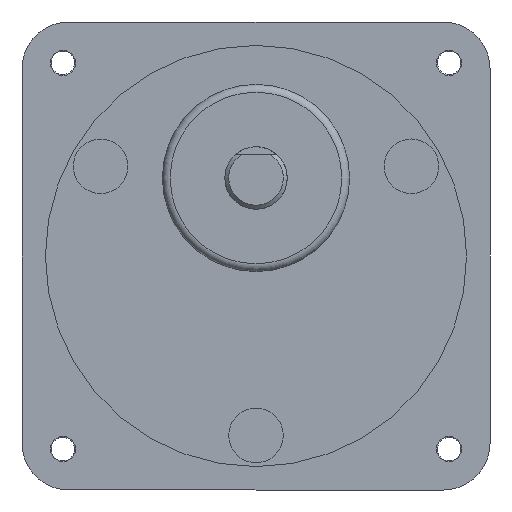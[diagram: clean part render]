
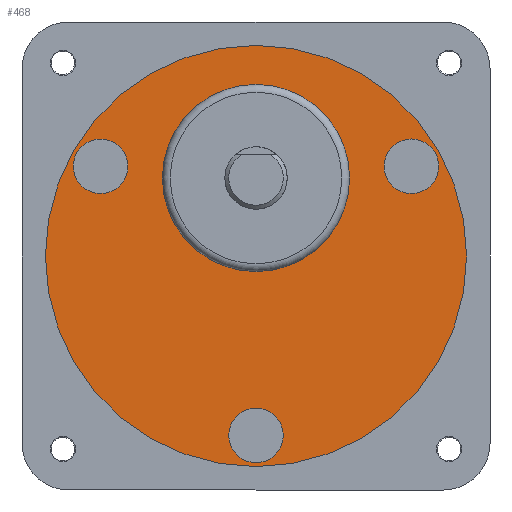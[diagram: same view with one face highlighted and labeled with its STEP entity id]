
A CAD part, front view. The second image highlights one B-rep face of the part: STEP entity #468.
In plain terms, the highlighted planar face has unit normal (0, -1, 0).
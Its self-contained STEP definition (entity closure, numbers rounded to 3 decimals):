
#317=CARTESIAN_POINT('',(18.169,0.5,14.531));
#318=VERTEX_POINT('',#317);
#319=CARTESIAN_POINT('',(19.919,0.5,11.5));
#320=DIRECTION('',(0.0,1.0,0.0));
#321=DIRECTION('',(0.5,0.0,-0.866));
#322=AXIS2_PLACEMENT_3D('',#319,#320,#321);
#323=CIRCLE('',#322,3.5);
#324=EDGE_CURVE('',#318,#318,#323,.T.);
#354=CARTESIAN_POINT('',(-21.669,0.5,8.469));
#355=VERTEX_POINT('',#354);
#356=CARTESIAN_POINT('',(-19.919,0.5,11.5));
#357=DIRECTION('',(0.0,1.,0.0));
#358=DIRECTION('',(0.5,0.0,0.866));
#359=AXIS2_PLACEMENT_3D('',#356,#357,#358);
#360=CIRCLE('',#359,3.5);
#361=EDGE_CURVE('',#355,#355,#360,.T.);
#391=CARTESIAN_POINT('',(3.5,0.5,-23.));
#392=VERTEX_POINT('',#391);
#393=CARTESIAN_POINT('',(0.0,0.5,-23.));
#394=DIRECTION('',(0.0,1.0,0.0));
#395=DIRECTION('',(-1.0,0.0,0.0));
#396=AXIS2_PLACEMENT_3D('',#393,#394,#395);
#397=CIRCLE('',#396,3.5);
#398=EDGE_CURVE('',#392,#392,#397,.T.);
#417=CARTESIAN_POINT('',(27.0,0.5,0.));
#418=VERTEX_POINT('',#417);
#419=CARTESIAN_POINT('',(0.0,0.5,0.0));
#420=DIRECTION('',(0.0,-1.0,0.0));
#421=DIRECTION('',(-1.0,0.0,0.0));
#422=AXIS2_PLACEMENT_3D('',#419,#420,#421);
#423=CIRCLE('',#422,27.0);
#424=EDGE_CURVE('',#418,#418,#423,.T.);
#440=CARTESIAN_POINT('',(0.0,0.5,0.0));
#441=DIRECTION('',(0.0,1.0,0.0));
#442=DIRECTION('',(0.0,0.0,1.0));
#443=AXIS2_PLACEMENT_3D('',#440,#441,#442);
#444=PLANE('',#443);
#445=ORIENTED_EDGE('',*,*,#424,.T.);
#446=EDGE_LOOP('',(#445));
#447=FACE_OUTER_BOUND('',#446,.T.);
#448=ORIENTED_EDGE('',*,*,#324,.T.);
#449=EDGE_LOOP('',(#448));
#450=FACE_BOUND('',#449,.T.);
#451=ORIENTED_EDGE('',*,*,#361,.T.);
#452=EDGE_LOOP('',(#451));
#453=FACE_BOUND('',#452,.T.);
#454=ORIENTED_EDGE('',*,*,#398,.T.);
#455=EDGE_LOOP('',(#454));
#456=FACE_BOUND('',#455,.T.);
#457=CARTESIAN_POINT('',(12.,0.5,10.));
#458=VERTEX_POINT('',#457);
#459=CARTESIAN_POINT('',(0.0,0.5,10.0));
#460=DIRECTION('',(0.0,-1.0,0.0));
#461=DIRECTION('',(-1.0,0.0,0.0));
#462=AXIS2_PLACEMENT_3D('',#459,#460,#461);
#463=CIRCLE('',#462,12.);
#464=EDGE_CURVE('',#458,#458,#463,.T.);
#465=ORIENTED_EDGE('',*,*,#464,.F.);
#466=EDGE_LOOP('',(#465));
#467=FACE_BOUND('',#466,.T.);
#468=ADVANCED_FACE('',(#447,#450,#453,#456,#467),#444,.F.);
